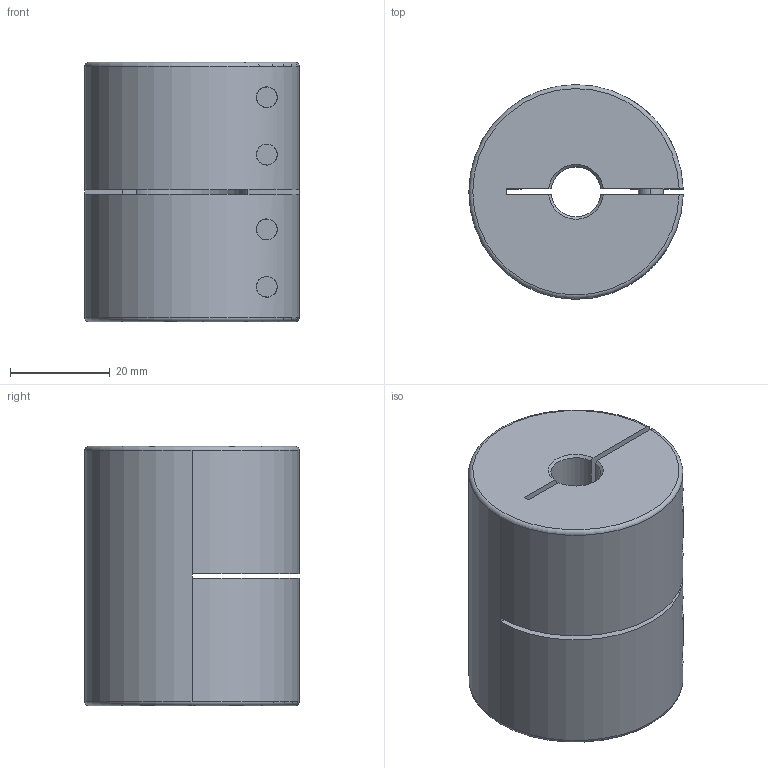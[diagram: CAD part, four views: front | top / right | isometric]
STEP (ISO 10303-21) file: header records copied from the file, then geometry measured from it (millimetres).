
FILE_DESCRIPTION (( 'STEP AP203' ), '1' );
FILE_NAME ('SRGL-43C-10X22_203.STEP', '2013-03-04T01:07:38', ( '' ), ( '' ), 'SwSTEP 2.0', 'SolidWorks 2012', '' );
FILE_SCHEMA (( 'CONFIG_CONTROL_DESIGN' ));
Length unit declared in the file: millimetre
Products named in the file (1): SRGL-43C-10X22_203
Bounding box: 42.99 x 43 x 52 mm (x, y, z)
Volume: 59662.2 mm3; surface area: 17599.1 mm2
Topology: 1 solids, 1 shells, 196 faces, 448 edges, 262 vertices
Faces by surface type: plane 76, cylinder 66, cone 28, torus 26
Entity records: 5997 total; most frequent: CARTESIAN_POINT 1461, DIRECTION 992, ORIENTED_EDGE 880, EDGE_CURVE 440, AXIS2_PLACEMENT_3D 383, VERTEX_POINT 262, VECTOR 226, LINE 226
